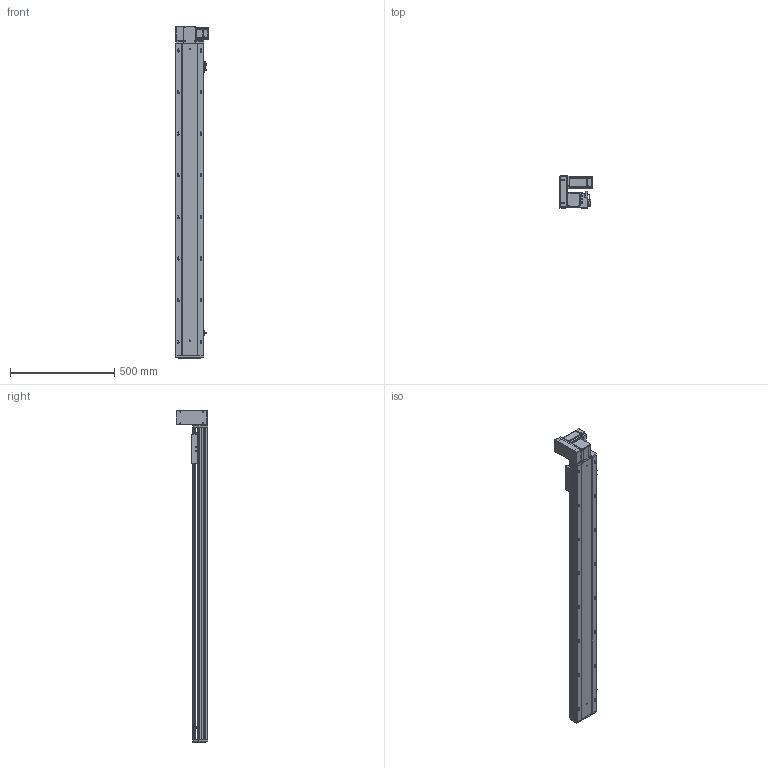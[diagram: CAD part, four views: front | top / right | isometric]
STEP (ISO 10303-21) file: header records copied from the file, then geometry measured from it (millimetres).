
FILE_DESCRIPTION (( 'STEP AP203' ), '1' );
FILE_NAME ('RY140-T-300-UL.SLDASM_1250.step', '2021-03-01T07:44:11', ( '盈信电脑' ), ( '东莞市道滘镇水果街19号' ), 'SwSTEP 2.0', 'SolidWorks 2012', '' );
FILE_SCHEMA (( 'CONFIG_CONTROL_DESIGN' ));
Length unit declared in the file: millimetre
Products named in the file (18): RY140-T-300-UL.SLDASM_1250; RY140-T翋肮謫裔啣; RY120-T蹟翐M4; RY140-T萇儂欶; 滅袉蝶18-10; RY120-T主同步轮轴承压盖; 侂狟400W侜督萇儂; 15; RY140-T翋肮祭謫盓傅釱; RY140-T萇儂假蚾啣; RY120-T肮祭湍揤踡輸2; 覜茼ん672; RY120-T肮祭湍揤踡輸1; RY120外置感应片(140共用）; RY140肮祭謫臏賑輸; RY140-T-300-DL倰第菁釱_1250; RY140綴裔啣; RY140-T-300-DL倰第奻裔啣_1250
Assembly tree (23 placements, depth 3):
  RY140-T-300-UL.SLDASM_1250
    RY140-T-300-DL倰第菁釱_1250
    RY140肮祭謫臏賑輸
    RY140-T-300-DL倰第奻裔啣_1250
    RY140綴裔啣
    覜茼ん672  x3
    RY120外置感应片(140共用）
    RY120-T肮祭湍揤踡輸2
    RY120-T肮祭湍揤踡輸1
    RY140-T翋肮祭謫盓傅釱
    RY140-T萇儂假蚾啣
    侂狟400W侜督萇儂
      15
    RY120-T主同步轮轴承压盖
    RY120-T蹟翐M4  x4
    RY140-T萇儂欶
    滅袉蝶18-10  x2
    RY140-T翋肮謫裔啣
Bounding box: 157 x 152.5 x 1596 mm (x, y, z)
Volume: 4595518.7 mm3; surface area: 1768437.9 mm2
Topology: 22 solids, 22 shells, 2719 faces, 7437 edges, 4758 vertices
Faces by surface type: plane 1381, cylinder 1000, cone 238, bspline 100
Entity records: 85819 total; most frequent: CARTESIAN_POINT 20867, ORIENTED_EDGE 13322, DIRECTION 12709, EDGE_CURVE 6661, VERTEX_POINT 4357, LINE 4253, VECTOR 4253, AXIS2_PLACEMENT_3D 4228
